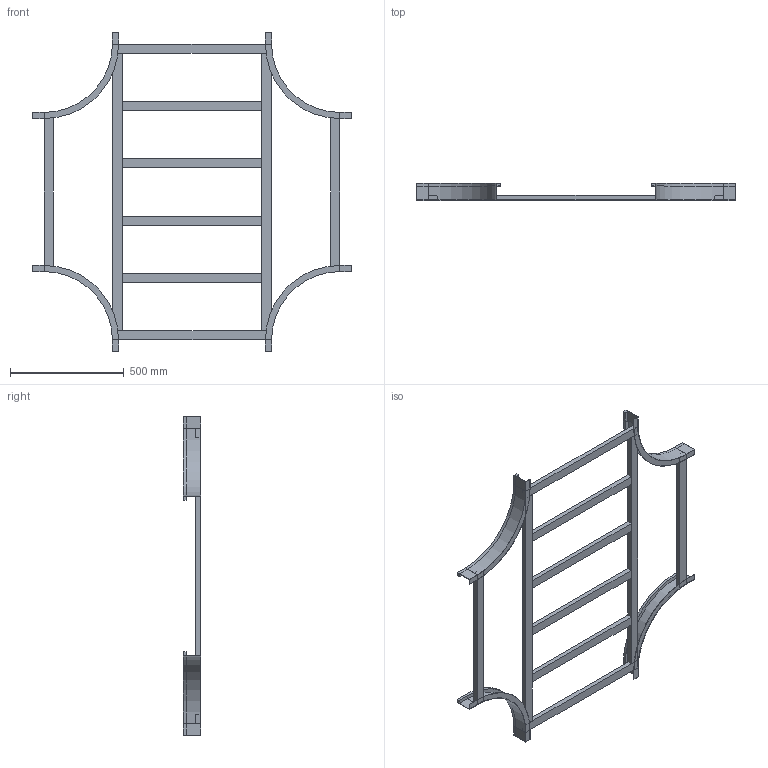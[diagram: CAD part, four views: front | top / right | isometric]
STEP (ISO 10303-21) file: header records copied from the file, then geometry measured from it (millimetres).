
FILE_DESCRIPTION (( 'STEP AP214' ), '1' );
FILE_NAME ('B2_17B3C700.step', '2025-02-21T15:59:20', ( '' ), ( '' ), 'SwSTEP 2.0', 'SolidWorks 2023', '' );
FILE_SCHEMA (( 'AUTOMOTIVE_DESIGN' ));
Length unit declared in the file: millimetre
Products named in the file (5): TRAVERSINO_700; TRAVERSINO_INTERMEDIO_R300+700; B2_TRAVERSINO_LONG._R300+700; B2_LONGH.INTERNO 90°_H75_R300; B2_17B3C700
Assembly tree (14 placements, depth 2):
  B2_17B3C700
    B2_LONGH.INTERNO 90°_H75_R300  x4
    TRAVERSINO_700  x4
    B2_TRAVERSINO_LONG._R300+700  x2
    TRAVERSINO_INTERMEDIO_R300+700  x4
Bounding box: 1400 x 75 x 1400 mm (x, y, z)
Volume: 7135684.1 mm3; surface area: 1497161.6 mm2
Topology: 14 solids, 14 shells, 164 faces, 344 edges, 208 vertices
Faces by surface type: plane 148, cylinder 16
Entity records: 1370 total; most frequent: DIRECTION 222, CARTESIAN_POINT 209, ORIENTED_EDGE 184, EDGE_CURVE 92, VECTOR 84, LINE 84, AXIS2_PLACEMENT_3D 69, VERTEX_POINT 56
